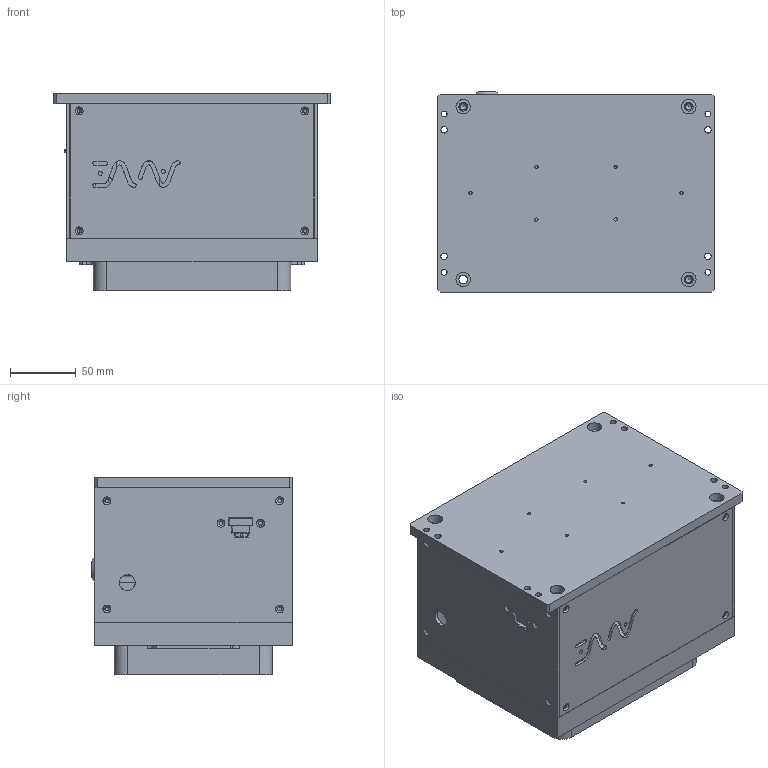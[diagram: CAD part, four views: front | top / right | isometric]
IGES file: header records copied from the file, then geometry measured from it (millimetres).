
Global section: file name: AIVE2.2; native system: Autodesk Inventor 2024; preprocessor: unknown; author: houns; date: 20250626.171017; units: millimetre
Bounding box: 210 x 152 x 150 mm (x, y, z)
Volume: 1149323.7 mm3; surface area: 434639.7 mm2
Topology: 51 solids, 51 shells, 954 faces, 2286 edges, 1509 vertices
Faces by surface type: bspline 954
